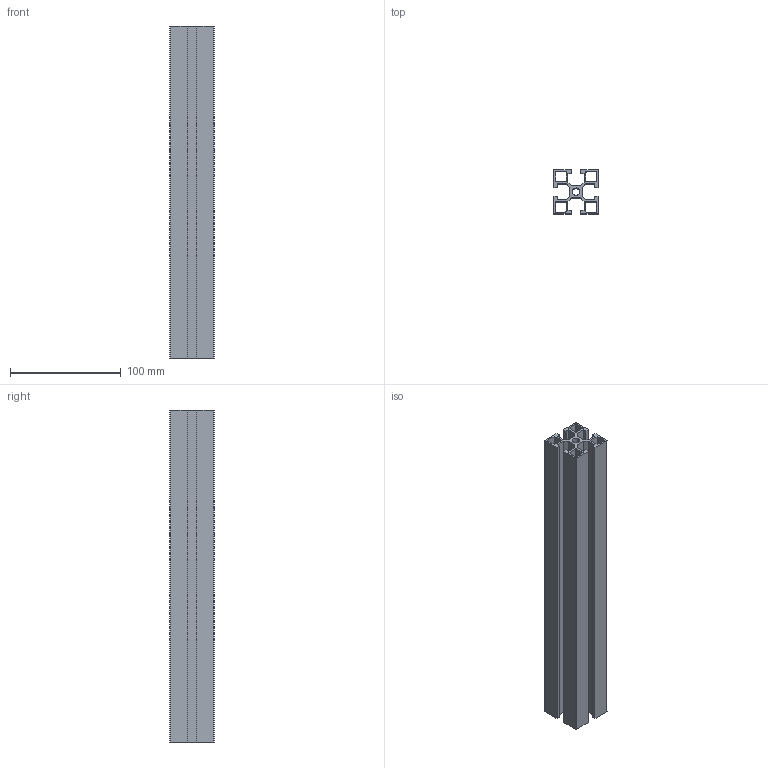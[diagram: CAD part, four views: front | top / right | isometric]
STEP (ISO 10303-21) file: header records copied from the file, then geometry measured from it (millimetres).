
FILE_DESCRIPTION (( 'STEP AP203' ), '1' );
FILE_NAME ('26-CG-4040L-8.STEP', '2015-07-07T03:21:52', ( '' ), ( '' ), 'SwSTEP 2.0', 'SolidWorks 2013', '' );
FILE_SCHEMA (( 'CONFIG_CONTROL_DESIGN' ));
Length unit declared in the file: millimetre
Products named in the file (1): 26-CG-4040L-8
Bounding box: 40 x 40 x 300 mm (x, y, z)
Volume: 142739.3 mm3; surface area: 144957.6 mm2
Topology: 1 solids, 1 shells, 84 faces, 246 edges, 164 vertices
Faces by surface type: plane 62, cylinder 22
Entity records: 2871 total; most frequent: CARTESIAN_POINT 495, ORIENTED_EDGE 492, DIRECTION 460, EDGE_CURVE 246, VECTOR 202, LINE 202, VERTEX_POINT 164, AXIS2_PLACEMENT_3D 129
